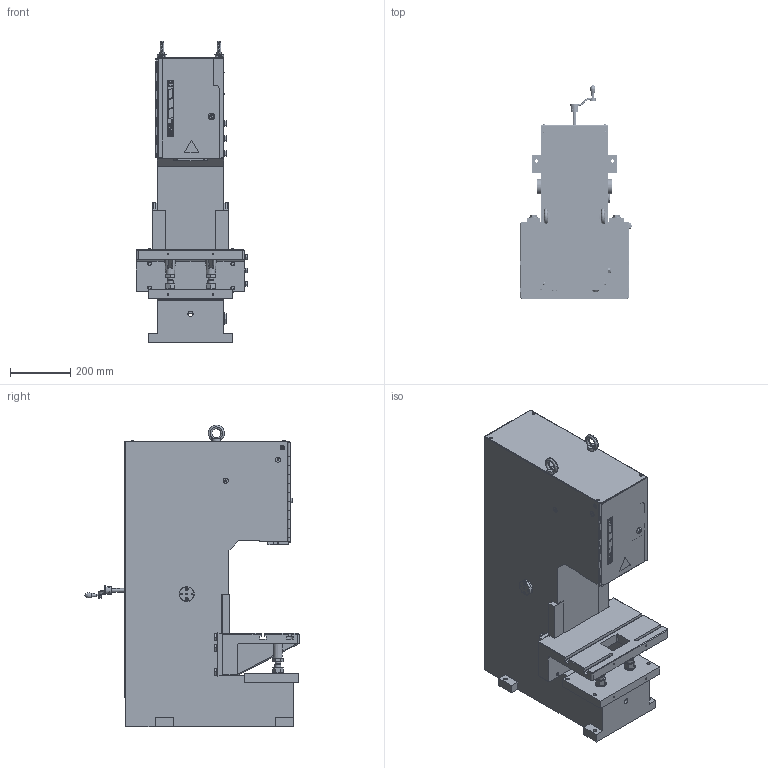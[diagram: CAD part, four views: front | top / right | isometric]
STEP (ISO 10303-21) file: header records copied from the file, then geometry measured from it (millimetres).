
FILE_DESCRIPTION(/* description */ (''),/* implementation_level */ '2;1');
FILE_NAME(/* name */ 'P:\CAD-Daten-für-Kunden\07_Pressen KHP\01_KHP Standard\Presse_KHP_50kN_G800_Hub62_ANR18512.stp',/* time_stamp */ '2021-03-08T07:49:55+01:00',/* author */ ('tse'),/* organization */ (''),/* preprocessor_version */ 'ST-DEVELOPER v18',/* originating_system */ 'Autodesk Inventor 2020',/* authorisation */ '');
FILE_SCHEMA (('AUTOMOTIVE_DESIGN { 1 0 10303 214 3 1 1 }'));
Products named in the file (4): Presse_KHP_50kN_G800_Hub62_ANR18512; Ständereinheit_KHP_50-70kN_G800; Tischeinheit_KHP_50-70-100kN_HPC_110kN_ANR18613; Schlittendummy_KHP_50-70-100kN_HPC_110kN_ANR18607
Assembly tree (3 placements, depth 2):
  Presse_KHP_50kN_G800_Hub62_ANR18512
    Ständereinheit_KHP_50-70kN_G800
    Tischeinheit_KHP_50-70-100kN_HPC_110kN_ANR18613
    Schlittendummy_KHP_50-70-100kN_HPC_110kN_ANR18607
Bounding box: 370 x 714.49 x 1005 mm (x, y, z)
Volume: 77091718 mm3; surface area: 2904595.3 mm2
Topology: 4 solids, 45 shells, 9104 faces, 25605 edges, 17106 vertices
Faces by surface type: plane 5385, bspline 2966, cylinder 447, cone 244, torus 56, sphere 6
Full cylindrical faces by diameter (mm): 1.5 x2, 2 x12, 2.1 x4, 2.459 x1, 2.5 x5, 3 x11, 3.242 x4, 4 x14, 4.917 x23, 5 x12, 5.9 x1, 6 x5, 6.6 x4, 7 x5, 7.5 x3, 7.8 x2, 8 x20, 8.376 x8, 8.4 x4, 9 x4, 10 x12, 10.5 x12, 10.8 x2, 11 x14, 11.835 x6, 11.974 x2, 12.4 x1, 13 x12, 14 x6, 14.5 x6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
Entity records: 320964 total; most frequent: CARTESIAN_POINT 104889, ORIENTED_EDGE 51128, DIRECTION 28906, EDGE_CURVE 25564, VERTEX_POINT 17106, LINE 12836, VECTOR 12836, B_SPLINE_CURVE_WITH_KNOTS 10389
